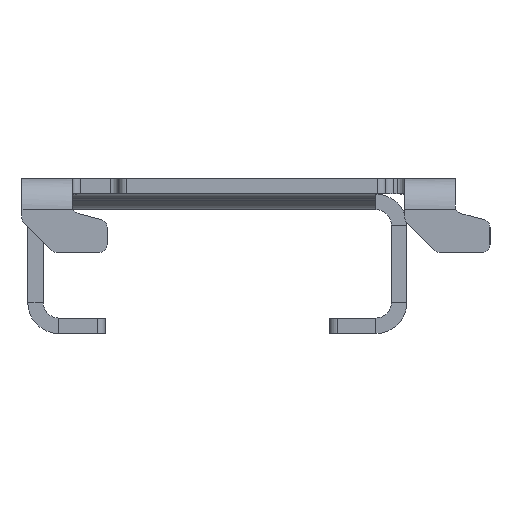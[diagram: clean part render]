
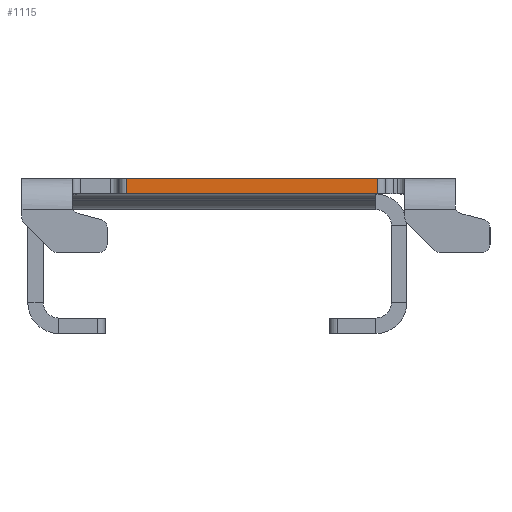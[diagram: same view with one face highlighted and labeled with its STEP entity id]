
A CAD part, left-side view. The second image highlights one B-rep face of the part: STEP entity #1115.
In plain terms, the highlighted planar face has unit normal (-1, 0, 0).
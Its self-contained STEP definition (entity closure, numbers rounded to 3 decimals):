
#1115 = ADVANCED_FACE ( 'NONE', ( #13638 ), #16042, .T. ) ;
#1318 = CARTESIAN_POINT ( 'NONE',  ( -296.359, 11.75, 11.031 ) ) ;
#3141 = DIRECTION ( 'NONE',  ( -1., 0., 0. ) ) ;
#3183 = LINE ( 'NONE', #9144, #8195 ) ;
#3306 = CARTESIAN_POINT ( 'NONE',  ( -296.359, -20.75, 11.031 ) ) ;
#4244 = LINE ( 'NONE', #21522, #27135 ) ;
#4768 = EDGE_CURVE ( 'NONE', #18041, #11309, #3183, .T. ) ;
#5623 = CARTESIAN_POINT ( 'NONE',  ( -296.359, 11.75, 9.031 ) ) ;
#8195 = VECTOR ( 'NONE', #15659, 1000. ) ;
#9077 = DIRECTION ( 'NONE',  ( 0., 1., 0. ) ) ;
#9144 = CARTESIAN_POINT ( 'NONE',  ( -296.359, 0., 9.031 ) ) ;
#9217 = LINE ( 'NONE', #24364, #25087 ) ;
#9542 = LINE ( 'NONE', #22433, #13273 ) ;
#9989 = CARTESIAN_POINT ( 'NONE',  ( -296.359, -20.75, 9.031 ) ) ;
#10757 = DIRECTION ( 'NONE',  ( 0., 0., -1. ) ) ;
#11226 = DIRECTION ( 'NONE',  ( 0., 0., 1. ) ) ;
#11309 = VERTEX_POINT ( 'NONE', #5623 ) ;
#13273 = VECTOR ( 'NONE', #13797, 1000. ) ;
#13608 = EDGE_CURVE ( 'NONE', #17198, #22085, #9217, .T. ) ;
#13638 = FACE_OUTER_BOUND ( 'NONE', #26795, .T. ) ;
#13797 = DIRECTION ( 'NONE',  ( 0., 0., 1. ) ) ;
#15659 = DIRECTION ( 'NONE',  ( 0., 1., 0. ) ) ;
#16042 = PLANE ( 'NONE',  #25299 ) ;
#17198 = VERTEX_POINT ( 'NONE', #3306 ) ;
#18041 = VERTEX_POINT ( 'NONE', #9989 ) ;
#19483 = ORIENTED_EDGE ( 'NONE', *, *, #13608, .T. ) ;
#20911 = ORIENTED_EDGE ( 'NONE', *, *, #25723, .T. ) ;
#21522 = CARTESIAN_POINT ( 'NONE',  ( -296.359, 11.75, 9.031 ) ) ;
#22085 = VERTEX_POINT ( 'NONE', #1318 ) ;
#22433 = CARTESIAN_POINT ( 'NONE',  ( -296.359, -20.75, 11.031 ) ) ;
#22547 = CARTESIAN_POINT ( 'NONE',  ( -296.359, 25.25, 11.031 ) ) ;
#22693 = ORIENTED_EDGE ( 'NONE', *, *, #22845, .T. ) ;
#22845 = EDGE_CURVE ( 'NONE', #22085, #11309, #4244, .T. ) ;
#24364 = CARTESIAN_POINT ( 'NONE',  ( -296.359, 25.25, 11.031 ) ) ;
#25087 = VECTOR ( 'NONE', #9077, 1000. ) ;
#25299 = AXIS2_PLACEMENT_3D ( 'NONE', #22547, #3141, #11226 ) ;
#25723 = EDGE_CURVE ( 'NONE', #18041, #17198, #9542, .T. ) ;
#26795 = EDGE_LOOP ( 'NONE', ( #27509, #20911, #19483, #22693 ) ) ;
#27135 = VECTOR ( 'NONE', #10757, 1000. ) ;
#27509 = ORIENTED_EDGE ( 'NONE', *, *, #4768, .F. ) ;
